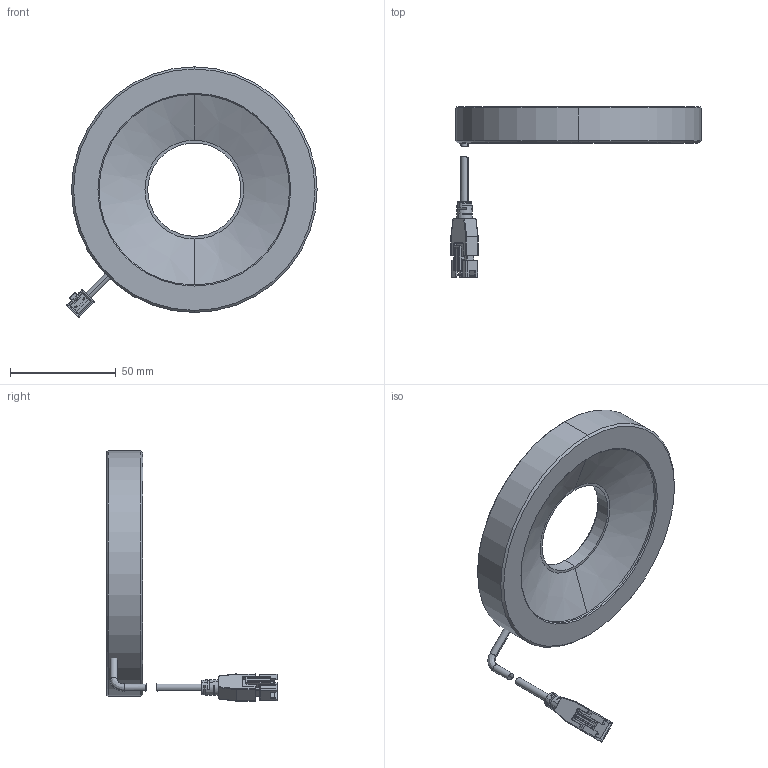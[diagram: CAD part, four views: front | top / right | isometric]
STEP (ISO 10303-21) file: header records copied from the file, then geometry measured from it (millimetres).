
FILE_DESCRIPTION (( 'STEP AP203' ), '1' );
FILE_NAME ('06 MV-LGES-116-W 光源_3d尺寸图（STP） .STEP', '2019-09-19T09:03:01', ( '' ), ( '' ), 'SwSTEP 2.0', 'SolidWorks 2016', '' );
FILE_SCHEMA (( 'CONFIG_CONTROL_DESIGN' ));
Length unit declared in the file: millimetre
Products named in the file (5): XIANLAN-_ASM; PRT0001; LINE_TOU; 06 MV-LGES-116-W 光源_3d尺寸图（STP） ; BODY_12
Assembly tree (4 placements, depth 3):
  06 MV-LGES-116-W 光源_3d尺寸图（STP） 
    PRT0001
    XIANLAN-_ASM
      LINE_TOU
      BODY_12
Bounding box: 118.19 x 80.3 x 118.19 mm (x, y, z)
Volume: 2492.7 mm3; surface area: 28388.3 mm2
Topology: 2 solids, 7 shells, 276 faces, 699 edges, 425 vertices
Faces by surface type: plane 134, cylinder 88, bspline 28, cone 20, torus 6
Entity records: 9458 total; most frequent: CARTESIAN_POINT 2517, DIRECTION 1341, ORIENTED_EDGE 1334, EDGE_CURVE 675, AXIS2_PLACEMENT_3D 469, VERTEX_POINT 425, VECTOR 403, LINE 403
